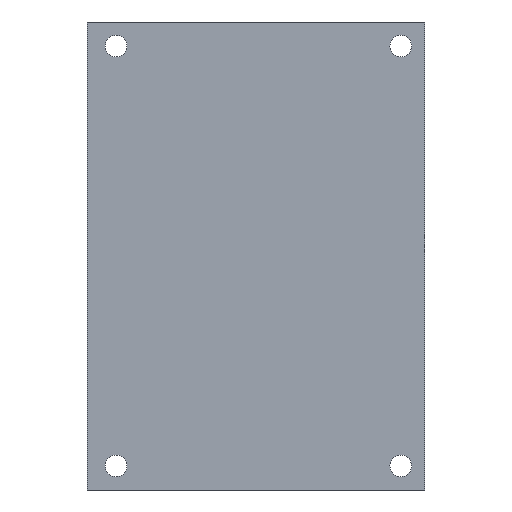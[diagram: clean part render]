
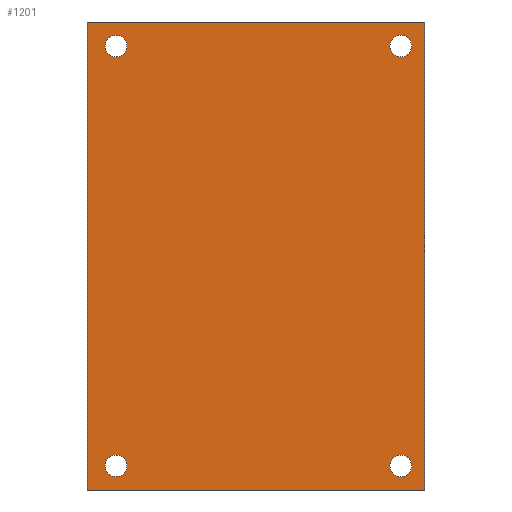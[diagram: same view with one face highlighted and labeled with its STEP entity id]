
A CAD part, front view. The second image highlights one B-rep face of the part: STEP entity #1201.
In plain terms, the highlighted planar face has unit normal (0, -1, 0) as drawn and (0, 0, 1) by its records, which use the part's own axes.
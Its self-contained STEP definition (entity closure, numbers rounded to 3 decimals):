
#1201=ADVANCED_FACE('',(#2455,#2456,#2457,#2458,#2459),#2460,.T.);
#2455=FACE_BOUND('',#4082,.T.);
#2456=FACE_BOUND('',#4083,.T.);
#2457=FACE_BOUND('',#4084,.T.);
#2458=FACE_BOUND('',#4085,.T.);
#2459=FACE_OUTER_BOUND('',#4086,.T.);
#2460=PLANE('',#4087);
#4082=EDGE_LOOP('',(#8176));
#4083=EDGE_LOOP('',(#8177));
#4084=EDGE_LOOP('',(#8178));
#4085=EDGE_LOOP('',(#8179));
#4086=EDGE_LOOP('',(#8180,#8181,#8182,#8183));
#4087=AXIS2_PLACEMENT_3D('',#8184,#8185,#8186);
#8176=ORIENTED_EDGE('',*,*,#11524,.F.);
#8177=ORIENTED_EDGE('',*,*,#11525,.T.);
#8178=ORIENTED_EDGE('',*,*,#11526,.F.);
#8179=ORIENTED_EDGE('',*,*,#11516,.T.);
#8180=ORIENTED_EDGE('',*,*,#11514,.T.);
#8181=ORIENTED_EDGE('',*,*,#11527,.T.);
#8182=ORIENTED_EDGE('',*,*,#11528,.T.);
#8183=ORIENTED_EDGE('',*,*,#11529,.T.);
#8184=CARTESIAN_POINT('',(-48.5,-35.0,25.889));
#8185=DIRECTION('',(0.0,0.0,1.0));
#8186=DIRECTION('',(1.0,0.0,0.0));
#11514=EDGE_CURVE('',#14027,#14025,#14028,.T.);
#11516=EDGE_CURVE('',#14030,#14030,#14031,.T.);
#11524=EDGE_CURVE('',#14045,#14045,#14046,.T.);
#11525=EDGE_CURVE('',#14047,#14047,#14048,.T.);
#11526=EDGE_CURVE('',#14049,#14049,#14050,.T.);
#11527=EDGE_CURVE('',#14025,#14051,#14052,.T.);
#11528=EDGE_CURVE('',#14051,#14053,#14054,.T.);
#11529=EDGE_CURVE('',#14053,#14027,#14055,.T.);
#14025=VERTEX_POINT('',#18106);
#14027=VERTEX_POINT('',#18109);
#14028=LINE('',#18110,#18111);
#14030=VERTEX_POINT('',#18114);
#14031=CIRCLE('',#18115,2.25);
#14045=VERTEX_POINT('',#18132);
#14046=CIRCLE('',#18133,2.25);
#14047=VERTEX_POINT('',#18134);
#14048=CIRCLE('',#18135,2.25);
#14049=VERTEX_POINT('',#18136);
#14050=CIRCLE('',#18137,2.25);
#14051=VERTEX_POINT('',#18138);
#14052=LINE('',#18139,#18140);
#14053=VERTEX_POINT('',#18141);
#14054=LINE('',#18142,#18143);
#14055=LINE('',#18144,#18145);
#18106=CARTESIAN_POINT('',(-48.5,-35.0,25.889));
#18109=CARTESIAN_POINT('',(-48.5,35.0,25.889));
#18110=CARTESIAN_POINT('',(-48.5,35.0,25.889));
#18111=VECTOR('',#21415,1.0);
#18114=CARTESIAN_POINT('',(-45.75,-29.0,25.889));
#18115=AXIS2_PLACEMENT_3D('',#21417,#21418,#21419);
#18132=CARTESIAN_POINT('',(45.75,30.0,25.889));
#18133=AXIS2_PLACEMENT_3D('',#21435,#21436,#21437);
#18134=CARTESIAN_POINT('',(-45.75,30.0,25.889));
#18135=AXIS2_PLACEMENT_3D('',#21438,#21439,#21440);
#18136=CARTESIAN_POINT('',(45.75,-29.0,25.889));
#18137=AXIS2_PLACEMENT_3D('',#21441,#21442,#21443);
#18138=CARTESIAN_POINT('',(48.5,-35.0,25.889));
#18139=CARTESIAN_POINT('',(-48.5,-35.0,25.889));
#18140=VECTOR('',#21444,1.0);
#18141=CARTESIAN_POINT('',(48.5,35.0,25.889));
#18142=CARTESIAN_POINT('',(48.5,-35.0,25.889));
#18143=VECTOR('',#21445,1.0);
#18144=CARTESIAN_POINT('',(48.5,35.0,25.889));
#18145=VECTOR('',#21446,1.0);
#21415=DIRECTION('',(0.0,-1.0,0.0));
#21417=CARTESIAN_POINT('',(-43.5,-29.0,25.889));
#21418=DIRECTION('',(0.0,0.0,-1.0));
#21419=DIRECTION('',(-1.0,0.0,0.0));
#21435=CARTESIAN_POINT('',(43.5,30.0,25.889));
#21436=DIRECTION('',(0.0,0.0,1.0));
#21437=DIRECTION('',(1.0,0.0,0.0));
#21438=CARTESIAN_POINT('',(-43.5,30.0,25.889));
#21439=DIRECTION('',(0.0,0.0,-1.0));
#21440=DIRECTION('',(-1.0,0.0,0.0));
#21441=CARTESIAN_POINT('',(43.5,-29.0,25.889));
#21442=DIRECTION('',(0.0,0.0,1.0));
#21443=DIRECTION('',(1.0,0.0,0.0));
#21444=DIRECTION('',(1.0,0.0,0.0));
#21445=DIRECTION('',(0.0,1.0,0.0));
#21446=DIRECTION('',(-1.0,0.0,0.0));
